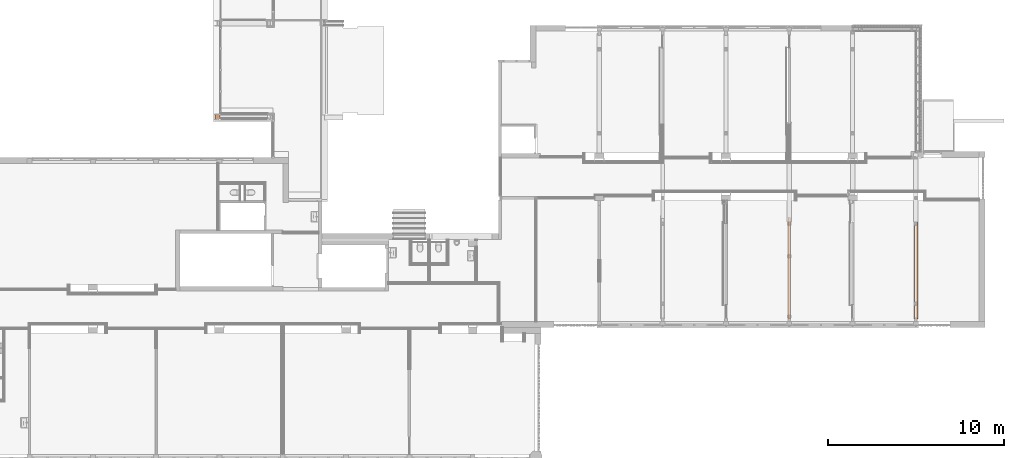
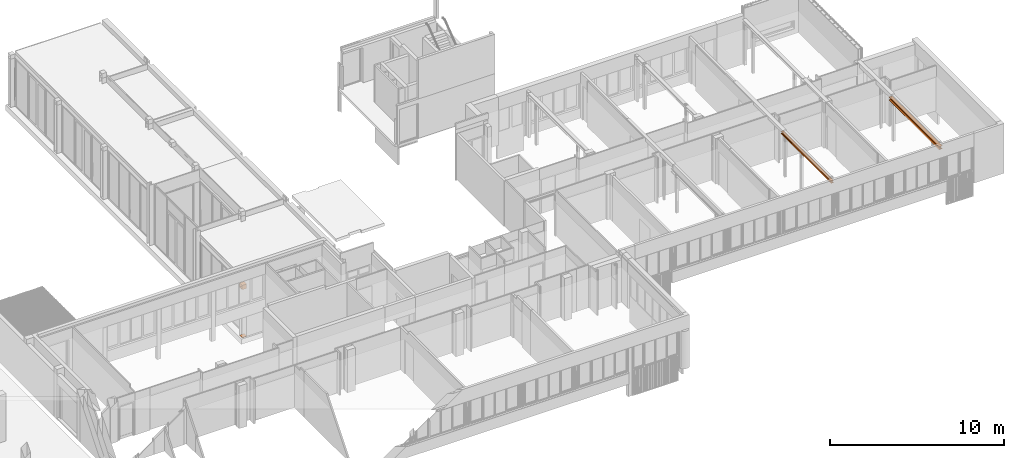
# One storey, part 96 of 99: 3 proxies.
"""IFC2X3 building model written with IfcOpenShell, lengths in millimetres."""

from ifc_helpers import new_model, entity, si_unit, converted_unit, derived_unit, money_unit, direction, frame, origin_with_axes, place, context, subcontext, project, spatial, faceted_brep, material, type_object, element, save


model = new_model("IFC2X3")

# Units and contexts
model_context = context("Model", 3, precision=0.01, world=origin_with_axes(), true_north=direction((0.0, 1.0)))
body_context = subcontext(model_context, "Body", "Model", "MODEL_VIEW")
ifc_project = project(units=[si_unit("LENGTHUNIT", "METRE", prefix="MILLI"), si_unit("AREAUNIT", "SQUARE_METRE"), si_unit("VOLUMEUNIT", "CUBIC_METRE"), converted_unit("PLANEANGLEUNIT", "DEGREE", entity("IfcPlaneAngleMeasure", 0.0174532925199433), si_unit("PLANEANGLEUNIT", "RADIAN"), dimensions=[0, 0, 0, 0, 0, 0, 0]), money_unit("EUR"), converted_unit("TIMEUNIT", "Year", entity("IfcTimeMeasure", 31557600.0), si_unit("TIMEUNIT", "SECOND"), dimensions=[0, 0, 1, 0, 0, 0, 0]), si_unit("MASSUNIT", "GRAM", prefix="KILO"), si_unit("THERMODYNAMICTEMPERATUREUNIT", "DEGREE_CELSIUS"), si_unit("LUMINOUSINTENSITYUNIT", "LUMEN"), si_unit("ENERGYUNIT", "JOULE", prefix="MEGA"), derived_unit("THERMALCONDUCTANCEUNIT", [(si_unit("POWERUNIT", "WATT"), 1), (si_unit("LENGTHUNIT", "METRE"), -1), (si_unit("THERMODYNAMICTEMPERATUREUNIT", "KELVIN"), -1)]), derived_unit("SPECIFICHEATCAPACITYUNIT", [(si_unit("ENERGYUNIT", "JOULE"), 1), (si_unit("MASSUNIT", "GRAM", prefix="KILO"), -1), (si_unit("THERMODYNAMICTEMPERATUREUNIT", "KELVIN"), -1)]), derived_unit("MASSDENSITYUNIT", [(si_unit("MASSUNIT", "GRAM", prefix="KILO"), 1), (si_unit("VOLUMEUNIT", "CUBIC_METRE"), -1)])], contexts=[model_context])

# Site, building, storey
site_placement = place(None, origin_with_axes())
site = spatial("IfcSite", under=ifc_project, at=site_placement, Name="Site", CompositionType="ELEMENT")
building_placement = place(site_placement, origin_with_axes())
building = spatial("IfcBuilding", under=site, at=building_placement, Name="Naam gebouw", CompositionType="ELEMENT")
storey_placement = place(building_placement, frame((0.0, 0.0, 7650.0), z_axis=(0.0, 0.0, 1.0), x_axis=(1.0, 0.0, 0.0)))
storey = spatial("IfcBuildingStorey", under=building, at=storey_placement, Name="2e verdieping N", CompositionType="ELEMENT", Elevation=7650.0)

# Proxies
ifc_material_1 = material(Name="Metaal - Staal AFW")
building_element_proxy_type_1 = type_object("IfcBuildingElementProxyType", Name="HEB balk 27", PredefinedType="NOTDEFINED")
proxy_1_placement = place(storey_placement, frame((46800.0, 11130.91242510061, 2819.999999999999), z_axis=(0.0, 0.0, 1.0), x_axis=(0.0, -1.0, 0.0)))
element("IfcBuildingElementProxy", 1, at=proxy_1_placement, inside=storey, type_object=building_element_proxy_type_1, material=ifc_material_1, Name="_Boom-x", context=body_context, shape_type="Brep", body=[
    faceted_brep([(0.0, -80.0, 0.0), (-5785.0, -80.00000000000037, 0.0), (-5785.0, 79.99999999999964, 0.0), (0.0, 80.0, 0.0), (0.0, -80.0, 13.0), (-5785.0, -80.00000000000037, 13.00000000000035), (-5785.0, -19.00000000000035, 13.00000000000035), (-5785.0, -11.50000000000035, 15.00961894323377), (-5785.0, -6.009618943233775, 20.50000000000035), (-5785.0, -4.000000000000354, 28.00000000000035), (-5785.0, -4.000000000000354, 132.0000000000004), (-5785.0, -6.009618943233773, 139.5000000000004), (-5785.0, -11.50000000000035, 144.9903810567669), (-5785.0, -19.00000000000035, 147.0000000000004), (-5785.0, -80.00000000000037, 147.0000000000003), (-5785.0, -80.00000000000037, 160.0000000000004), (-5785.0, 79.99999999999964, 160.0000000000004), (-5785.0, 79.99999999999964, 147.0000000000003), (-5785.0, 18.99999999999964, 147.0000000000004), (-5785.0, 11.49999999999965, 144.9903810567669), (-5785.0, 6.009618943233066, 139.5000000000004), (-5785.0, 3.999999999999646, 132.0000000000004), (-5785.0, 3.999999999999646, 28.00000000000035), (-5785.0, 6.009618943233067, 20.50000000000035), (-5785.0, 11.49999999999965, 15.00961894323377), (-5785.0, 18.99999999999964, 13.00000000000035), (-5785.0, 79.99999999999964, 13.00000000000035), (0.0, 80.0, 13.0), (0.0, 19.0, 13.0), (0.0, 11.5, 15.00961894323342), (0.0, 6.009618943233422, 20.5), (0.0, 4.0, 28.0), (0.0, 4.0, 132.0), (0.0, 6.00961894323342, 139.5), (0.0, 11.5, 144.9903810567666), (0.0, 19.0, 147.0), (0.0, 80.0, 147.0), (0.0, 80.0, 160.0), (0.0, -80.0, 160.0), (0.0, -80.0, 147.0), (0.0, -19.0, 147.0), (0.0, -11.5, 144.9903810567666), (0.0, -6.00961894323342, 139.5), (0.0, -4.0, 132.0), (0.0, -4.0, 28.0), (0.0, -6.009618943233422, 20.5), (0.0, -11.5, 15.00961894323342), (0.0, -19.0, 13.0)], [[[0, 1, 2, 3]], [[4, 5, 1, 0]], [[1, 5, 6, 7, 8, 9, 10, 11, 12, 13, 14, 15, 16, 17, 18, 19, 20, 21, 22, 23, 24, 25, 26, 2]], [[3, 2, 26, 27]], [[0, 3, 27, 28, 29, 30, 31, 32, 33, 34, 35, 36, 37, 38, 39, 40, 41, 42, 43, 44, 45, 46, 47, 4]], [[47, 6, 5, 4]], [[46, 7, 6, 47]], [[45, 8, 7, 46]], [[44, 9, 8, 45]], [[43, 10, 9, 44]], [[42, 11, 10, 43]], [[41, 12, 11, 42]], [[40, 13, 12, 41]], [[39, 14, 13, 40]], [[38, 15, 14, 39]], [[37, 16, 15, 38]], [[36, 17, 16, 37]], [[35, 18, 17, 36]], [[34, 19, 18, 35]], [[33, 20, 19, 34]], [[32, 21, 20, 33]], [[31, 22, 21, 32]], [[30, 23, 22, 31]], [[29, 24, 23, 30]], [[28, 25, 24, 29]], [[27, 26, 25, 28]]]),
])
proxy_2_placement = place(storey_placement, frame((54000.0, 11130.91242510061, 2669.997805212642), z_axis=(0.0, 0.0, 1.0), x_axis=(0.0, -1.0, 0.0)))
element("IfcBuildingElementProxy", 2, at=proxy_2_placement, inside=storey, type_object=building_element_proxy_type_1, material=ifc_material_1, Name="_Boom-x", context=body_context, shape_type="Brep", body=[
    faceted_brep([(0.0, -110.0, 0.0), (-5785.0, -110.0000000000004, 0.0), (-5785.0, 109.9999999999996, 0.0), (0.0, 110.0, 0.0), (0.0, -110.0, 16.0), (-5785.0, -110.0000000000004, 16.00000000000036), (-5785.0, -22.75000000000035, 16.00000000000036), (-5785.0, -13.75000000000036, 18.41154273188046), (-5785.0, -7.161542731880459, 25.00000000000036), (-5785.0, -4.750000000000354, 34.00000000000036), (-5785.0, -4.750000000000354, 186.0000000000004), (-5785.0, -7.161542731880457, 195.0000000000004), (-5785.0, -13.75000000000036, 201.5884572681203), (-5785.0, -22.75000000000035, 204.0000000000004), (-5785.0, -110.0000000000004, 204.0000000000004), (-5785.0, -110.0000000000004, 220.0000000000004), (-5785.0, 109.9999999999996, 220.0000000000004), (-5785.0, 109.9999999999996, 204.0000000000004), (-5785.0, 22.74999999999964, 204.0000000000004), (-5785.0, 13.74999999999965, 201.5884572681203), (-5785.0, 7.16154273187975, 195.0000000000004), (-5785.0, 4.749999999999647, 186.0000000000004), (-5785.0, 4.749999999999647, 34.00000000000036), (-5785.0, 7.161542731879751, 25.00000000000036), (-5785.0, 13.74999999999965, 18.41154273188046), (-5785.0, 22.74999999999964, 16.00000000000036), (-5785.0, 109.9999999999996, 16.00000000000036), (0.0, 110.0, 16.0), (0.0, 22.75, 16.0), (0.0, 13.75, 18.41154273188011), (0.0, 7.161542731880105, 25.0), (0.0, 4.750000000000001, 34.0), (0.0, 4.750000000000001, 186.0), (0.0, 7.161542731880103, 195.0), (0.0, 13.75, 201.5884572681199), (0.0, 22.75, 204.0), (0.0, 110.0, 204.0), (0.0, 110.0, 220.0), (0.0, -110.0, 220.0), (0.0, -110.0, 204.0), (0.0, -22.75, 204.0), (0.0, -13.75, 201.5884572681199), (0.0, -7.161542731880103, 195.0), (0.0, -4.750000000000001, 186.0), (0.0, -4.750000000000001, 34.0), (0.0, -7.161542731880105, 25.0), (0.0, -13.75, 18.41154273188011), (0.0, -22.75, 16.0)], [[[0, 1, 2, 3]], [[4, 5, 1, 0]], [[1, 5, 6, 7, 8, 9, 10, 11, 12, 13, 14, 15, 16, 17, 18, 19, 20, 21, 22, 23, 24, 25, 26, 2]], [[3, 2, 26, 27]], [[0, 3, 27, 28, 29, 30, 31, 32, 33, 34, 35, 36, 37, 38, 39, 40, 41, 42, 43, 44, 45, 46, 47, 4]], [[47, 6, 5, 4]], [[46, 7, 6, 47]], [[45, 8, 7, 46]], [[44, 9, 8, 45]], [[43, 10, 9, 44]], [[42, 11, 10, 43]], [[41, 12, 11, 42]], [[40, 13, 12, 41]], [[39, 14, 13, 40]], [[38, 15, 14, 39]], [[37, 16, 15, 38]], [[36, 17, 16, 37]], [[35, 18, 17, 36]], [[34, 19, 18, 35]], [[33, 20, 19, 34]], [[32, 21, 20, 33]], [[31, 22, 21, 32]], [[30, 23, 22, 31]], [[29, 24, 23, 30]], [[28, 25, 24, 29]], [[27, 26, 25, 28]]]),
])
ifc_material_2 = material(Name="staal geanodiseerd RAL 7024")
building_element_proxy_type_2 = type_object("IfcBuildingElementProxyType", Name="Structural Connections 269:Structural Connections 1", PredefinedType="NOTDEFINED")
proxy_3_placement = place(storey_placement, frame((28651.00001269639, 22625.91242505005, -3500.0), z_axis=(0.0, 0.0, 1.0), x_axis=(0.0, 1.0, 0.0)))
element("IfcBuildingElementProxy", 3, at=proxy_3_placement, inside=storey, type_object=building_element_proxy_type_2, material=ifc_material_2, Name="Structural Connections 269:Structural Connections 1", context=body_context, shape_type="Brep", body=[
    faceted_brep([(-149.9999987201, 14206.36948296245, 0.0), (150.0000012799, 14206.36948296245, 0.0), (150.0000012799, 14206.36948296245, 20.0), (-149.9999987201, 14206.36948296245, 20.0), (-149.9999987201, 14506.36948296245, 0.0), (150.0000012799, 14506.36948296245, 0.0), (150.0000012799, 14506.36948296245, 20.0), (-149.9999987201, 14506.36948296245, 20.0)], [[[0, 1, 2, 3]], [[0, 4, 5, 1]], [[1, 5, 6, 2]], [[3, 2, 6, 7]], [[4, 0, 3, 7]], [[5, 4, 7, 6]]]),
    faceted_brep([(-149.99999872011, 14206.36948296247, 3399.999999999), (150.00000127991, 14206.36948296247, 3399.999999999), (150.00000127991, 14206.36948296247, 3419.999999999), (-149.99999872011, 14206.36948296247, 3419.999999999), (-149.99999872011, 14506.36948296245, 3399.999999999), (150.00000127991, 14506.36948296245, 3399.999999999), (150.00000127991, 14506.36948296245, 3419.999999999), (-149.99999872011, 14506.36948296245, 3419.999999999)], [[[0, 1, 2, 3]], [[0, 4, 5, 1]], [[1, 5, 6, 2]], [[3, 2, 6, 7]], [[4, 0, 3, 7]], [[5, 4, 7, 6]]]),
    faceted_brep([(-149.99999872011, 14206.36948296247, 3679.999999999), (150.00000127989, 14206.36948296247, 3679.999999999), (150.00000127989, 14206.36948296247, 3680.99999999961), (-149.99999872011, 14206.36948296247, 3680.99999999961), (-149.99999872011, 14506.36948296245, 3679.999999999), (150.00000127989, 14506.36948296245, 3679.999999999), (150.00000127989, 14506.36948296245, 3680.99999999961), (-149.99999872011, 14506.36948296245, 3680.99999999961)], [[[0, 1, 2, 3]], [[0, 4, 5, 1]], [[1, 5, 6, 2]], [[3, 2, 6, 7]], [[4, 0, 3, 7]], [[5, 4, 7, 6]]]),
    faceted_brep([(-149.99999872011, 14206.36948296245, 3379.999999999), (150.00000127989, 14206.36948296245, 3379.999999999), (150.00000127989, 14206.36948296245, 3399.999999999), (-149.99999872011, 14206.36948296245, 3399.999999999), (-149.99999872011, 14506.36948296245, 3379.999999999), (150.00000127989, 14506.36948296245, 3379.999999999), (150.00000127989, 14506.36948296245, 3399.999999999), (-149.99999872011, 14506.36948296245, 3399.999999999)], [[[0, 1, 2, 3]], [[0, 4, 5, 1]], [[1, 5, 6, 2]], [[3, 2, 6, 7]], [[4, 0, 3, 7]], [[5, 4, 7, 6]]]),
    faceted_brep([(-130.99999872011, 14206.36948296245, 3680.99999999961), (-149.99999872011, 14206.36948296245, 3680.99999999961), (-149.99999872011, 14206.36948296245, 3399.999999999), (-130.99999872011, 14206.36948296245, 3399.999999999), (-130.99999872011, 14350.86948296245, 3680.99999999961), (131.00000127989, 14350.86948296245, 3680.99999999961), (131.00000127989, 14206.36948296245, 3680.99999999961), (150.00000127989, 14206.36948296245, 3680.99999999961), (150.00000127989, 14506.36948296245, 3680.99999999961), (131.00000127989, 14506.36948296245, 3680.99999999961), (131.00000127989, 14361.86948296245, 3680.99999999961), (-130.99999872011, 14361.86948296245, 3680.99999999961), (-130.99999872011, 14506.36948296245, 3680.99999999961), (-149.99999872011, 14506.36948296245, 3680.99999999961), (-149.99999872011, 14506.36948296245, 3399.999999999), (-130.99999872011, 14506.36948296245, 3399.999999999), (-130.99999872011, 14361.86948296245, 3399.999999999), (131.00000127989, 14361.86948296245, 3399.999999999), (131.00000127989, 14506.36948296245, 3399.999999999), (150.00000127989, 14506.36948296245, 3399.999999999), (150.00000127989, 14206.36948296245, 3399.999999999), (131.00000127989, 14206.36948296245, 3399.999999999), (131.00000127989, 14350.86948296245, 3399.999999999), (-130.99999872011, 14350.86948296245, 3399.999999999)], [[[0, 1, 2, 3]], [[0, 4, 5, 6, 7, 8, 9, 10, 11, 12, 13, 1]], [[1, 13, 14, 2]], [[3, 2, 14, 15, 16, 17, 18, 19, 20, 21, 22, 23]], [[4, 0, 3, 23]], [[5, 4, 23, 22]], [[6, 5, 22, 21]], [[7, 6, 21, 20]], [[8, 7, 20, 19]], [[9, 8, 19, 18]], [[10, 9, 18, 17]], [[11, 10, 17, 16]], [[12, 11, 16, 15]], [[13, 12, 15, 14]]]),
])

save(model, "model.ifc")
